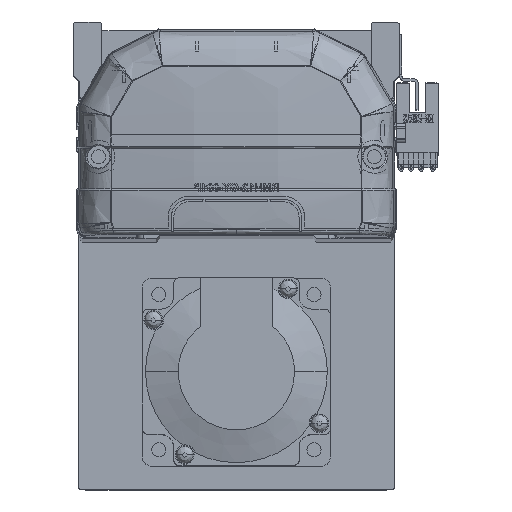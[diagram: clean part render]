
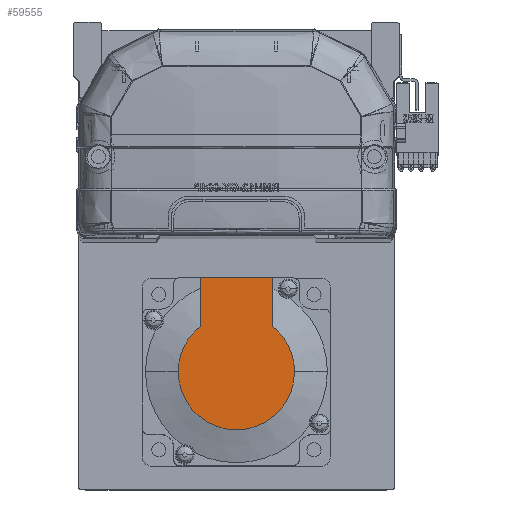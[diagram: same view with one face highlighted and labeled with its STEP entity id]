
A CAD part, top view. The second image highlights one B-rep face of the part: STEP entity #59555.
In plain terms, the highlighted planar face has unit normal (0, 0, 1) as drawn and (-1, 0, 0) by its records, which use the part's own axes.
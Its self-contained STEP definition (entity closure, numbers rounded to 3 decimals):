
#2822 = CARTESIAN_POINT ( 'NONE',  ( -79., 30., -11.45 ) ) ;
#4388 = AXIS2_PLACEMENT_3D ( 'NONE', #8647, #13284, #35942 ) ;
#4731 = LINE ( 'NONE', #12900, #9807 ) ;
#4883 = EDGE_CURVE ( 'NONE', #24730, #18004, #40943, .T. ) ;
#6281 = DIRECTION ( 'NONE',  ( -1., 0., 0. ) ) ;
#6474 = CARTESIAN_POINT ( 'NONE',  ( -79., 0., -18.538 ) ) ;
#7160 = VERTEX_POINT ( 'NONE', #21110 ) ;
#7242 = EDGE_CURVE ( 'NONE', #49711, #34012, #4731, .T. ) ;
#8268 = DIRECTION ( 'NONE',  ( 0., -1., 0. ) ) ;
#8361 = LINE ( 'NONE', #44911, #28499 ) ;
#8647 = CARTESIAN_POINT ( 'NONE',  ( -79., 0., 0. ) ) ;
#9046 = AXIS2_PLACEMENT_3D ( 'NONE', #29609, #25012, #34188 ) ;
#9807 = VECTOR ( 'NONE', #8268, 1000. ) ;
#11007 = ORIENTED_EDGE ( 'NONE', *, *, #53580, .F. ) ;
#11316 = CARTESIAN_POINT ( 'NONE',  ( -79., 0., 0. ) ) ;
#12900 = CARTESIAN_POINT ( 'NONE',  ( -79., 0., 11.45 ) ) ;
#13284 = DIRECTION ( 'NONE',  ( -1., 0., 0. ) ) ;
#15471 = DIRECTION ( 'NONE',  ( 0., -1., 0. ) ) ;
#15597 = DIRECTION ( 'NONE',  ( -1., 0., 0. ) ) ;
#18004 = VERTEX_POINT ( 'NONE', #6474 ) ;
#18810 = EDGE_CURVE ( 'NONE', #55195, #24730, #31941, .T. ) ;
#20034 = CARTESIAN_POINT ( 'NONE',  ( -79., 30., 11.45 ) ) ;
#21110 = CARTESIAN_POINT ( 'NONE',  ( -79., 0., 18.538 ) ) ;
#21942 = VECTOR ( 'NONE', #15471, 1000. ) ;
#21962 = CARTESIAN_POINT ( 'NONE',  ( -79., 14.579, 11.45 ) ) ;
#24599 = CARTESIAN_POINT ( 'NONE',  ( -79., -9.269, 0. ) ) ;
#24730 = VERTEX_POINT ( 'NONE', #31118 ) ;
#24784 = DIRECTION ( 'NONE',  ( 0., 0., -1. ) ) ;
#25012 = DIRECTION ( 'NONE',  ( -1., 0., 0. ) ) ;
#25194 = PLANE ( 'NONE',  #25816 ) ;
#25816 = AXIS2_PLACEMENT_3D ( 'NONE', #24599, #15597, #47603 ) ;
#28499 = VECTOR ( 'NONE', #35486, 1000. ) ;
#29609 = CARTESIAN_POINT ( 'NONE',  ( -79., 0., 0. ) ) ;
#31118 = CARTESIAN_POINT ( 'NONE',  ( -79., 14.579, -11.45 ) ) ;
#31941 = LINE ( 'NONE', #51919, #21942 ) ;
#34012 = VERTEX_POINT ( 'NONE', #21962 ) ;
#34188 = DIRECTION ( 'NONE',  ( 0., 0., -1. ) ) ;
#35486 = DIRECTION ( 'NONE',  ( 0., 0., 1. ) ) ;
#35942 = DIRECTION ( 'NONE',  ( 0., 0., -1. ) ) ;
#39680 = FACE_OUTER_BOUND ( 'NONE', #54535, .T. ) ;
#40943 = CIRCLE ( 'NONE', #9046, 18.538 ) ;
#42269 = EDGE_CURVE ( 'NONE', #7160, #34012, #50808, .T. ) ;
#44911 = CARTESIAN_POINT ( 'NONE',  ( -79., 30., 27. ) ) ;
#45545 = CIRCLE ( 'NONE', #52666, 18.538 ) ;
#47603 = DIRECTION ( 'NONE',  ( 0., 0., 1. ) ) ;
#49711 = VERTEX_POINT ( 'NONE', #20034 ) ;
#50808 = CIRCLE ( 'NONE', #4388, 18.538 ) ;
#51919 = CARTESIAN_POINT ( 'NONE',  ( -79., -9.269, -11.45 ) ) ;
#52004 = ORIENTED_EDGE ( 'NONE', *, *, #58683, .T. ) ;
#52666 = AXIS2_PLACEMENT_3D ( 'NONE', #11316, #6281, #24784 ) ;
#53580 = EDGE_CURVE ( 'NONE', #55195, #49711, #8361, .T. ) ;
#54535 = EDGE_LOOP ( 'NONE', ( #55429, #56485, #52004, #55293, #58266, #11007 ) ) ;
#55195 = VERTEX_POINT ( 'NONE', #2822 ) ;
#55293 = ORIENTED_EDGE ( 'NONE', *, *, #42269, .T. ) ;
#55429 = ORIENTED_EDGE ( 'NONE', *, *, #18810, .T. ) ;
#56485 = ORIENTED_EDGE ( 'NONE', *, *, #4883, .T. ) ;
#58266 = ORIENTED_EDGE ( 'NONE', *, *, #7242, .F. ) ;
#58683 = EDGE_CURVE ( 'NONE', #18004, #7160, #45545, .T. ) ;
#59555 = ADVANCED_FACE ( 'NONE', ( #39680 ), #25194, .T. ) ;
